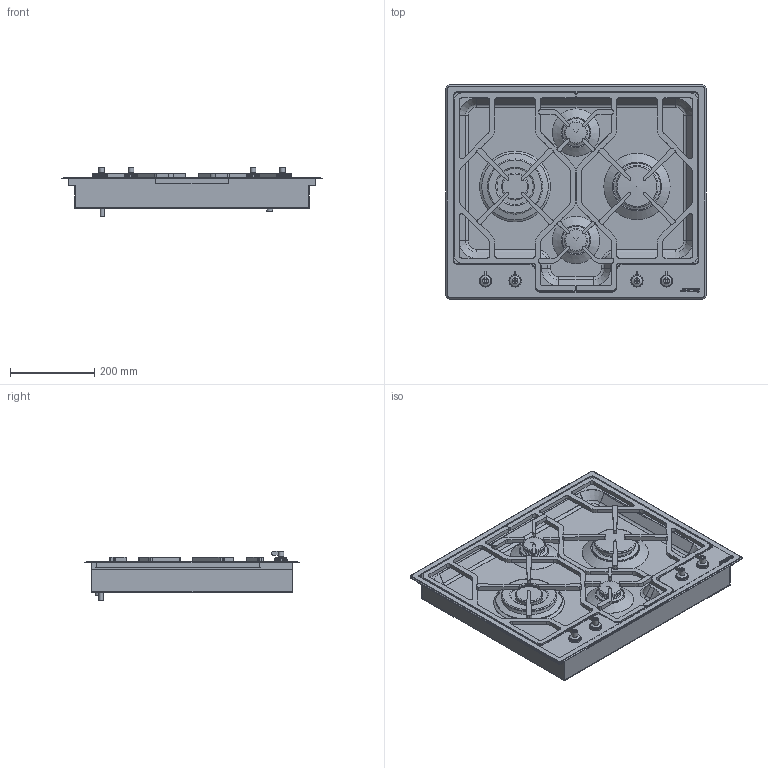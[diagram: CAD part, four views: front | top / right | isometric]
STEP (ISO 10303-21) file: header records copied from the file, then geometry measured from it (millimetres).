
FILE_DESCRIPTION(/* description */ (''),/* implementation_level */ '2;1');
FILE_NAME(/* name */ 'piano pgf64.stp',/* time_stamp */ '2018-08-08T11:28:21+02:00',/* author */ (''),/* organization */ (''),/* preprocessor_version */ 'ST-DEVELOPER v16',/* originating_system */ 'SIEMENS PLM Software NX 11.0',/* authorisation */ '');
FILE_SCHEMA (('AUTOMOTIVE_DESIGN { 1 0 10303 214 3 1 1 1 }'));
Length unit declared in the file: millimetre
Products named in the file (1): gobbAEC4546B4qiw
Bounding box: 616.8 x 508.8 x 117.9 mm (x, y, z)
Volume: 1882481 mm3; surface area: 2012823.6 mm2
Topology: 31 solids, 31 shells, 757 faces, 1814 edges, 1165 vertices
Faces by surface type: plane 372, cylinder 224, cone 83, torus 64, extrusion 11, bspline 2, sphere 1
Full cylindrical faces by diameter (mm): 3.988 x6, 6 x4, 8 x5, 10 x1, 13.5 x4, 14 x2, 21.6 x2, 22 x6, 26 x2, 27 x4, 29 x4, 51 x2, 55 x2, 62 x2, 63.5 x1, 63.9 x1, 65.5 x2, 65.6 x1, 86.2 x1, 92 x1, 96 x1, 100 x1, 110.5 x1, 131 x1, 158 x1
Entity records: 21618 total; most frequent: CARTESIAN_POINT 3907, DIRECTION 3798, ORIENTED_EDGE 3286, EDGE_CURVE 1643, AXIS2_PLACEMENT_3D 1422, VERTEX_POINT 1149, EDGE_LOOP 988, VECTOR 954
